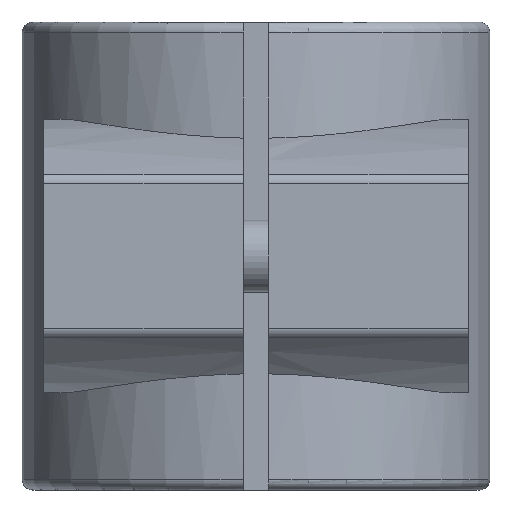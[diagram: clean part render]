
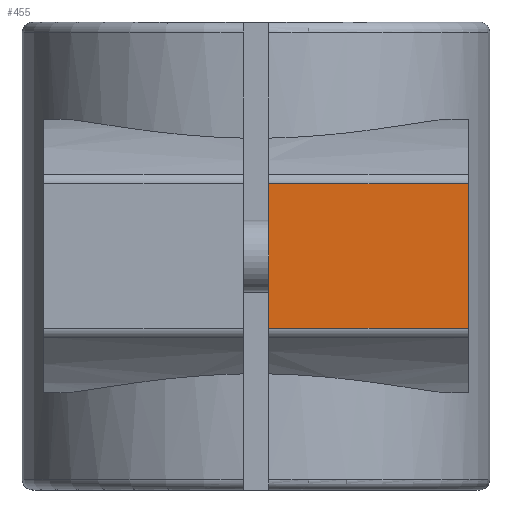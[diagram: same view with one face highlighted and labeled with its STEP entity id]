
A CAD part, left-side view. The second image highlights one B-rep face of the part: STEP entity #455.
In plain terms, the highlighted planar face has unit normal (-1, 0, 0).
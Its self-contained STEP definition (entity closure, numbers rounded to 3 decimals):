
#455 = ADVANCED_FACE( '', ( #951 ), #952, .F. );
#951 = FACE_OUTER_BOUND( '', #1454, .T. );
#952 = PLANE( '', #1455 );
#1454 = EDGE_LOOP( '', ( #2758, #2759, #2760, #2761 ) );
#1455 = AXIS2_PLACEMENT_3D( '', #2762, #2763, #2764 );
#2758 = ORIENTED_EDGE( '', *, *, #3398, .T. );
#2759 = ORIENTED_EDGE( '', *, *, #3178, .T. );
#2760 = ORIENTED_EDGE( '', *, *, #3276, .T. );
#2761 = ORIENTED_EDGE( '', *, *, #3293, .F. );
#2762 = CARTESIAN_POINT( '', ( -45., 29.5, -10.011 ) );
#2763 = DIRECTION( '', ( 1., 0., 0. ) );
#2764 = DIRECTION( '', ( 0., 0., -1. ) );
#3178 = EDGE_CURVE( '', #3901, #3903, #3905, .T. );
#3276 = EDGE_CURVE( '', #3903, #4055, #4056, .T. );
#3293 = EDGE_CURVE( '', #4079, #4055, #4081, .T. );
#3398 = EDGE_CURVE( '', #4079, #3901, #4211, .T. );
#3901 = VERTEX_POINT( '', #5118 );
#3903 = VERTEX_POINT( '', #5120 );
#3905 = LINE( '', #5122, #5123 );
#4055 = VERTEX_POINT( '', #5461 );
#4056 = LINE( '', #5462, #5463 );
#4079 = VERTEX_POINT( '', #5491 );
#4081 = LINE( '', #5493, #5494 );
#4211 = LINE( '', #5753, #5754 );
#5118 = CARTESIAN_POINT( '', ( -45., -1.75, -10.011 ) );
#5120 = CARTESIAN_POINT( '', ( -45., -29.5, -10.011 ) );
#5122 = CARTESIAN_POINT( '', ( -45., 29.5, -10.011 ) );
#5123 = VECTOR( '', #6150, 1000. );
#5461 = CARTESIAN_POINT( '', ( -45., -29.5, 10.011 ) );
#5462 = CARTESIAN_POINT( '', ( -45., -29.5, -10.011 ) );
#5463 = VECTOR( '', #6237, 1000. );
#5491 = CARTESIAN_POINT( '', ( -45., -1.75, 10.011 ) );
#5493 = CARTESIAN_POINT( '', ( -45., 29.5, 10.011 ) );
#5494 = VECTOR( '', #6270, 1000. );
#5753 = CARTESIAN_POINT( '', ( -45., -1.75, 32.5 ) );
#5754 = VECTOR( '', #6345, 1000. );
#6150 = DIRECTION( '', ( 0., -1., 0. ) );
#6237 = DIRECTION( '', ( 0., 0., 1. ) );
#6270 = DIRECTION( '', ( 0., -1., 0. ) );
#6345 = DIRECTION( '', ( 0., 0., -1. ) );
